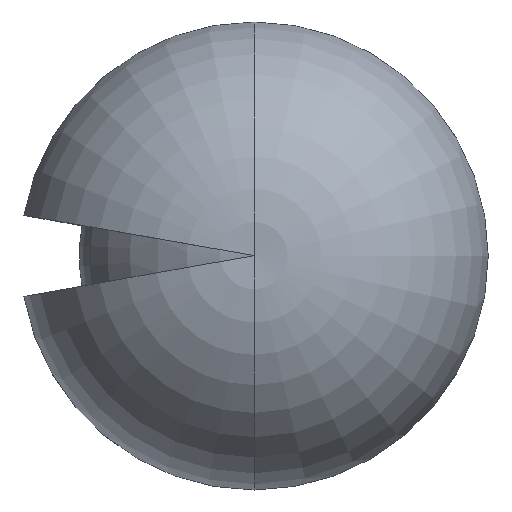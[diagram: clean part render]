
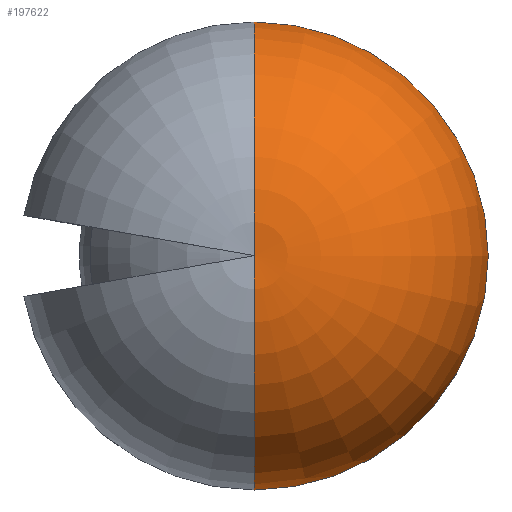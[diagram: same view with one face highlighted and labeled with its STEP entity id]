
A CAD part, top view. The second image highlights one B-rep face of the part: STEP entity #197622.
In plain terms, the highlighted toroidal (fillet/blend) face has major radius 320 mm and minor radius 2644.27 mm.
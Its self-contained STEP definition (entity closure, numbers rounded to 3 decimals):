
#16024 = DIRECTION ( 'NONE',  ( 0., 1., 0. ) ) ;
#44320 = CARTESIAN_POINT ( 'NONE',  ( 0., 0., 1010.463 ) ) ;
#46600 = CARTESIAN_POINT ( 'NONE',  ( 0., 320., 780. ) ) ;
#52469 = AXIS2_PLACEMENT_3D ( 'NONE', #90948, #57272, #329254 ) ;
#57272 = DIRECTION ( 'NONE',  ( 0., 0., -1. ) ) ;
#58024 = TOROIDAL_SURFACE ( 'NONE', #52469, 320., 2644.27 ) ;
#62269 = CIRCLE ( 'NONE', #237072, 2954.208 ) ;
#67162 = AXIS2_PLACEMENT_3D ( 'NONE', #191909, #299610, #310030 ) ;
#71356 = DIRECTION ( 'NONE',  ( 0., 0., 1. ) ) ;
#76712 = CARTESIAN_POINT ( 'NONE',  ( 0., 2954.208, 1010.463 ) ) ;
#90948 = CARTESIAN_POINT ( 'NONE',  ( 0., 0., 780. ) ) ;
#104046 = EDGE_LOOP ( 'NONE', ( #218248, #177732, #174784 ) ) ;
#115046 = EDGE_CURVE ( 'NONE', #310595, #239522, #62269, .T. ) ;
#145252 = EDGE_CURVE ( 'NONE', #278373, #310595, #309618, .T. ) ;
#162875 = AXIS2_PLACEMENT_3D ( 'NONE', #46600, #179181, #71356 ) ;
#174784 = ORIENTED_EDGE ( 'NONE', *, *, #115046, .F. ) ;
#177732 = ORIENTED_EDGE ( 'NONE', *, *, #329843, .T. ) ;
#179181 = DIRECTION ( 'NONE',  ( -1., 0., 0. ) ) ;
#191909 = CARTESIAN_POINT ( 'NONE',  ( 0., -320., 780. ) ) ;
#196979 = FACE_OUTER_BOUND ( 'NONE', #104046, .T. ) ;
#197622 = ADVANCED_FACE ( 'NONE', ( #196979 ), #58024, .T. ) ;
#203360 = CARTESIAN_POINT ( 'NONE',  ( 0., 0., 3404.836 ) ) ;
#208628 = DIRECTION ( 'NONE',  ( 0., 0., -1. ) ) ;
#218248 = ORIENTED_EDGE ( 'NONE', *, *, #145252, .F. ) ;
#237072 = AXIS2_PLACEMENT_3D ( 'NONE', #44320, #208628, #16024 ) ;
#239522 = VERTEX_POINT ( 'NONE', #317503 ) ;
#253280 = CIRCLE ( 'NONE', #67162, 2644.27 ) ;
#278373 = VERTEX_POINT ( 'NONE', #203360 ) ;
#299610 = DIRECTION ( 'NONE',  ( 1., 0., 0. ) ) ;
#309618 = CIRCLE ( 'NONE', #162875, 2644.27 ) ;
#310030 = DIRECTION ( 'NONE',  ( 0., 1., 0. ) ) ;
#310595 = VERTEX_POINT ( 'NONE', #76712 ) ;
#317503 = CARTESIAN_POINT ( 'NONE',  ( 0., -2954.208, 1010.463 ) ) ;
#329254 = DIRECTION ( 'NONE',  ( 0., 1., 0. ) ) ;
#329843 = EDGE_CURVE ( 'NONE', #278373, #239522, #253280, .T. ) ;
